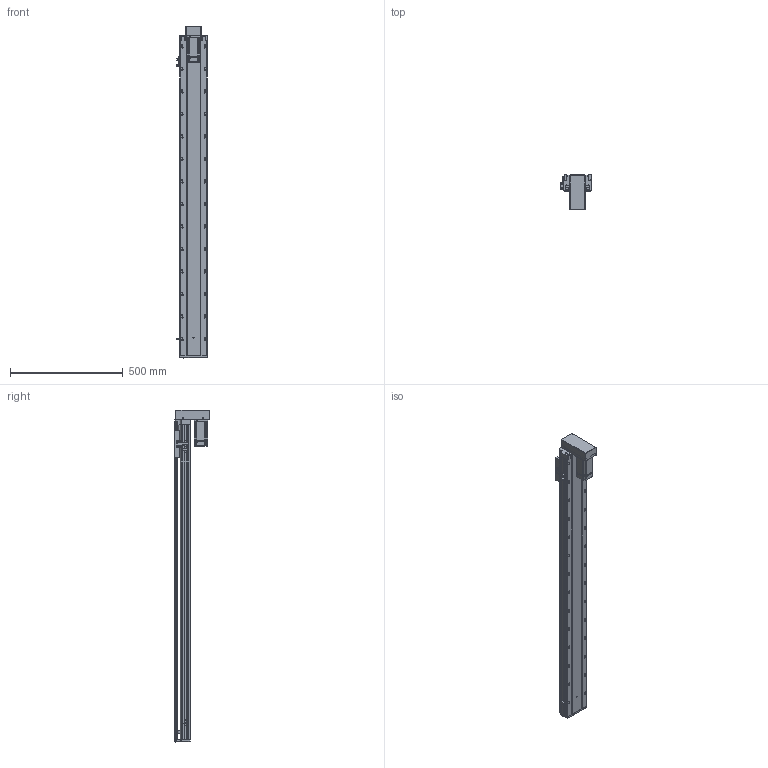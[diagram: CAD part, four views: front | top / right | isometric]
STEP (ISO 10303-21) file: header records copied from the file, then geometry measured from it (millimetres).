
FILE_DESCRIPTION (( 'STEP AP203' ), '1' );
FILE_NAME ('RY120-L2020-1000-BK.SLDASM_1200.step', '2021-03-12T07:20:28', ( '盈信电脑' ), ( '东莞市道滘镇水果街19号' ), 'SwSTEP 2.0', 'SolidWorks 2012', '' );
FILE_SCHEMA (( 'CONFIG_CONTROL_DESIGN' ));
Products named in the file (18): RY120-400W萇儂傷-BK; RY120下折折电机安装板; RY120-L2020-1000-BK.SLDASM_1200; 同步轮3M34齿宽15单边凸台; RY120狟殏萇儂欶; RY80肮祭湍覃踡啣; RY80肮祭湍芢雄輸; 侂狟400W侜督萇儂; 15; RY120转拆电端丝杆支撑座(20丝杆，7002轴承); RY120外置感应片(140共用）; 滅袉蝶18-24; 滅袉蝶18-10; 覜茼ん672; RY120綴裔啣; RY120-1000-BK蛌殏倰第奻裔啣_1200; RY120-1000-BK蛌殏倰第菁釱_1200; RY120臏賑輸(20蹟譫)
Assembly tree (21 placements, depth 4):
  RY120-L2020-1000-BK.SLDASM_1200
    RY120-1000-BK蛌殏倰第菁釱_1200
    RY120-1000-BK蛌殏倰第奻裔啣_1200
    RY120臏賑輸(20蹟譫)
    RY120綴裔啣
    覜茼ん672  x3
    滅袉蝶18-10
    滅袉蝶18-24  x2
    RY120外置感应片(140共用）
    RY120转拆电端丝杆支撑座(20丝杆，7002轴承)
    RY120-400W萇儂傷-BK
      侂狟400W侜督萇儂
        15
      RY80肮祭湍芢雄輸  x2
      同步轮3M34齿宽15单边凸台
      RY80肮祭湍覃踡啣
      RY120狟殏萇儂欶
      RY120下折折电机安装板
Bounding box: 135.7 x 159.5 x 1475 mm (x, y, z)
Volume: 3984919.4 mm3; surface area: 1496654.2 mm2
Topology: 20 solids, 20 shells, 3290 faces, 9047 edges, 5765 vertices
Faces by surface type: cylinder 1481, plane 1427, cone 277, bspline 105
Entity records: 110053 total; most frequent: CARTESIAN_POINT 30562, ORIENTED_EDGE 16586, DIRECTION 15736, EDGE_CURVE 8293, AXIS2_PLACEMENT_3D 5564, VERTEX_POINT 5389, VECTOR 4608, LINE 4608
